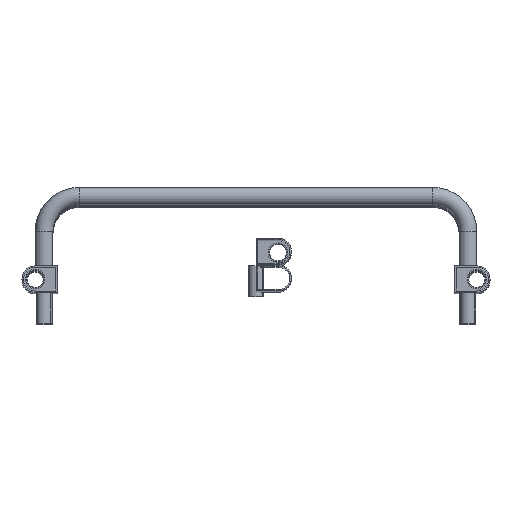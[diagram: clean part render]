
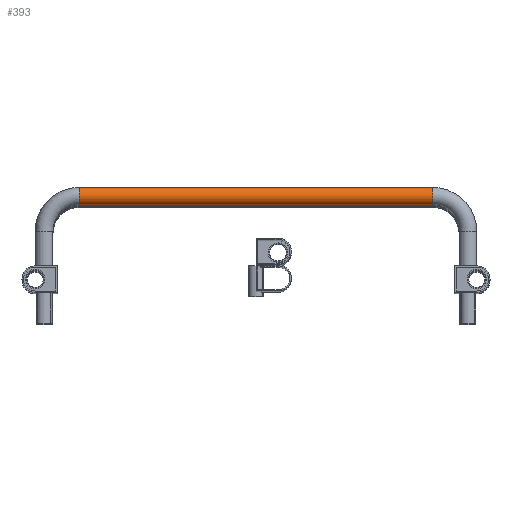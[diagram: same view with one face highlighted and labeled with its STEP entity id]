
A CAD part, top view. The second image highlights one B-rep face of the part: STEP entity #393.
In plain terms, the highlighted cylindrical face has radius 10 mm (diameter 20 mm), a full revolution.
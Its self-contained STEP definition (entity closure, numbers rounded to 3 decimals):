
#393 = ADVANCED_FACE( '', ( #543, #544 ), #545, .T. );
#543 = FACE_OUTER_BOUND( '', #743, .T. );
#544 = FACE_OUTER_BOUND( '', #744, .T. );
#545 = CYLINDRICAL_SURFACE( '', #745, 10. );
#743 = EDGE_LOOP( '', ( #965 ) );
#744 = EDGE_LOOP( '', ( #966 ) );
#745 = AXIS2_PLACEMENT_3D( '', #967, #968, #969 );
#965 = ORIENTED_EDGE( '', *, *, #1565, .T. );
#966 = ORIENTED_EDGE( '', *, *, #1563, .F. );
#967 = CARTESIAN_POINT( '', ( -200., 79., 0. ) );
#968 = DIRECTION( '', ( -1., 0., 0. ) );
#969 = DIRECTION( '', ( 0., 1., 0. ) );
#1563 = EDGE_CURVE( '', #1785, #1785, #1786, .F. );
#1565 = EDGE_CURVE( '', #1789, #1789, #1790, .F. );
#1785 = VERTEX_POINT( '', #2077 );
#1786 = CIRCLE( '', #2078, 10. );
#1789 = VERTEX_POINT( '', #2081 );
#1790 = CIRCLE( '', #2082, 10. );
#2077 = CARTESIAN_POINT( '', ( -200., 69., 0. ) );
#2078 = AXIS2_PLACEMENT_3D( '', #2475, #2476, #2477 );
#2081 = CARTESIAN_POINT( '', ( 200., 69., 0. ) );
#2082 = AXIS2_PLACEMENT_3D( '', #2481, #2482, #2483 );
#2475 = CARTESIAN_POINT( '', ( -200., 79., 0. ) );
#2476 = DIRECTION( '', ( 1., 0., 0. ) );
#2477 = DIRECTION( '', ( 0., -1., 0. ) );
#2481 = CARTESIAN_POINT( '', ( 200., 79., 0. ) );
#2482 = DIRECTION( '', ( 1., 0., 0. ) );
#2483 = DIRECTION( '', ( 0., -1., 0. ) );
